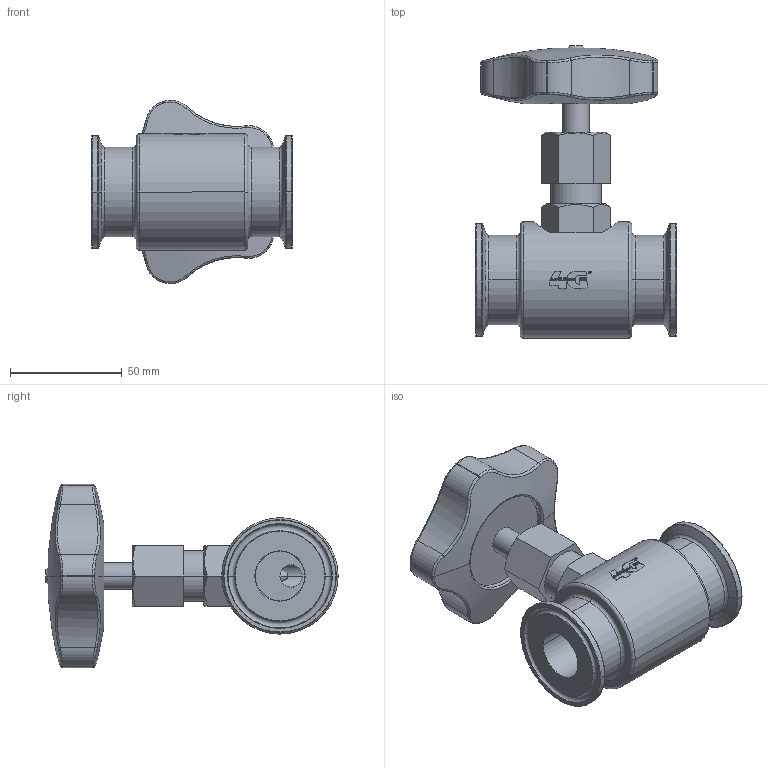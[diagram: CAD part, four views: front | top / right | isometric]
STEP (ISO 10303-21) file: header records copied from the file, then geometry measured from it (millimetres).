
FILE_DESCRIPTION((''),'2;1');
FILE_NAME('65803062300','2015-11-11T',('uff_tec'),('CDM Tecnoconsulting'),'PRO/ENGINEER BY PARAMETRIC TECHNOLOGY CORPORATION, 2010280','PRO/ENGINEER BY PARAMETRIC TECHNOLOGY CORPORATION, 2010280','');
FILE_SCHEMA(('CONFIG_CONTROL_DESIGN','SHAPE_APPEARANCE_LAYERS_GROUPS'));
Length unit declared in the file: millimetre
Products named in the file (1): 65803062300
Bounding box: 89.82 x 130.7 x 82.01 mm (x, y, z)
Surface area: 51444.1 mm2 (no closed solid volume)
Topology: 0 solids, 20 shells, 238 faces, 822 edges, 610 vertices
Faces by surface type: cylinder 68, torus 54, plane 52, bspline 32, cone 28, sphere 4
Entity records: 11980 total; most frequent: CARTESIAN_POINT 4640, DIRECTION 1323, ORIENTED_EDGE 1304, EDGE_CURVE 820, VERTEX_POINT 610, AXIS2_PLACEMENT_3D 532, CIRCLE 326, EDGE_LOOP 271
